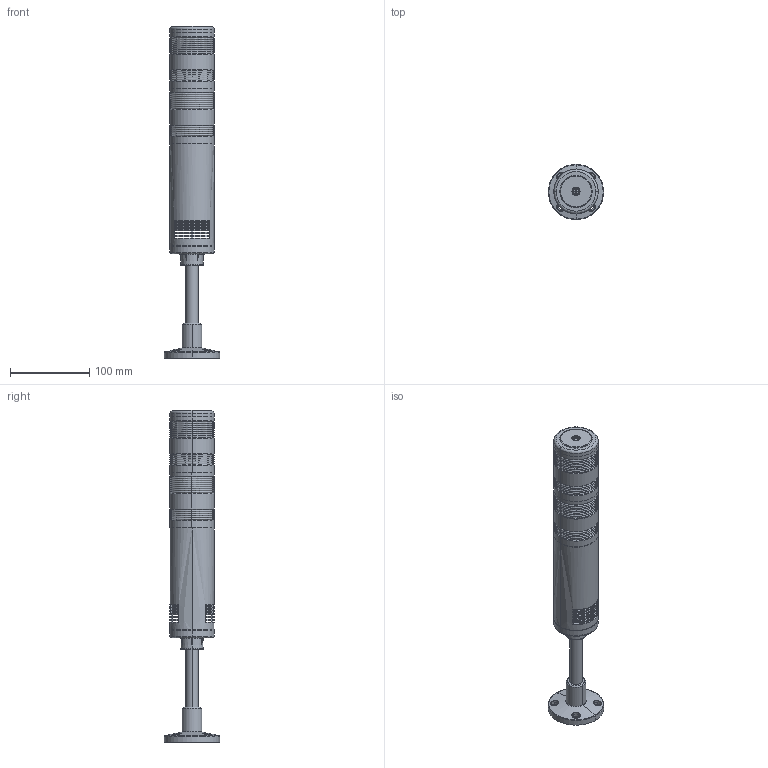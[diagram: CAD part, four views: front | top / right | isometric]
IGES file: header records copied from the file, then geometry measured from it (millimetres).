
Start section: IGES file generated by C3D Converter 1.6 translator by C3D Labs., translator version IGESOUT-5.1.
Global section: file name: C:\Users\Ìîíî\OneDrive\Desktop\øòóêè\ñâåòîñèãíàëüíàÿ êîëîííà 2\ñâåòîñèãíàëüíàÿ êîëîííà 2.igs; preprocessor: 1.0; author: Ìîíî; organization: unknown; date: -17760604:035651; units: millimetre
Bounding box: 70 x 70 x 419.94 mm (x, y, z)
Volume: 239289.9 mm3; surface area: 136187.3 mm2
Topology: 8 solids, 8 shells, 412 faces, 1074 edges, 676 vertices
Faces by surface type: revolution 250, bspline 162
